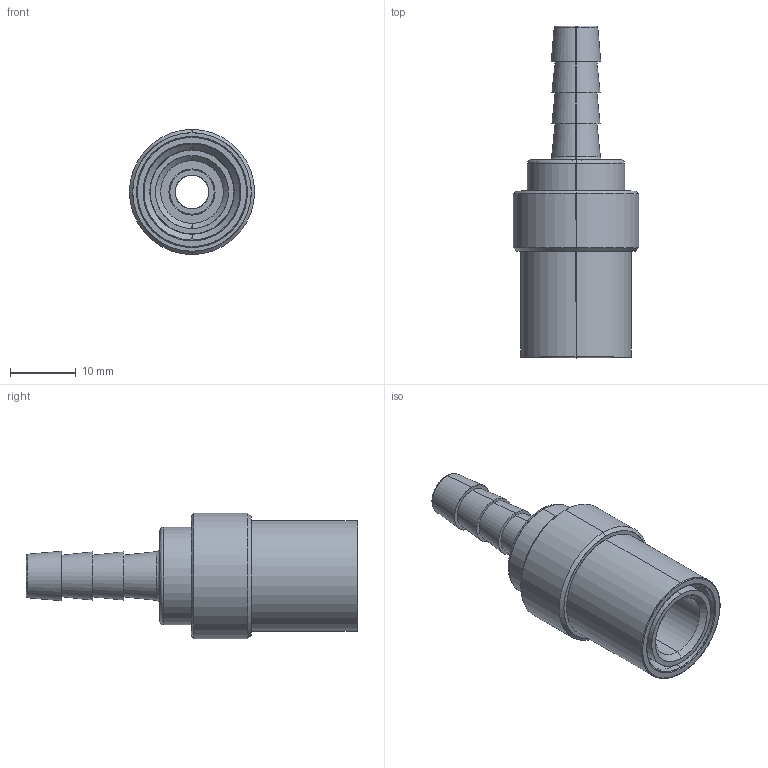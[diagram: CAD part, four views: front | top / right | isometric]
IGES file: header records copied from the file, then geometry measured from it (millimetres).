
Start section: SolidWorks IGES file using analytic representation for surfaces
Global section: file name: C:\Users\365admin\AppData\Local\Temp\InFlowConvert3DWorking\SC204.igs; native system: SolidWorks 2019; preprocessor: SolidWorks 2019; author: 365admin; date: 220203.011640; units: inch
Bounding box: 19.05 x 50.52 x 19.05 mm (x, y, z)
Surface area: 6265.8 mm2 (no closed solid volume)
Topology: 0 solids, 0 shells, 104 faces, 1148 edges, 1148 vertices
Faces by surface type: revolution 66, bspline 38
